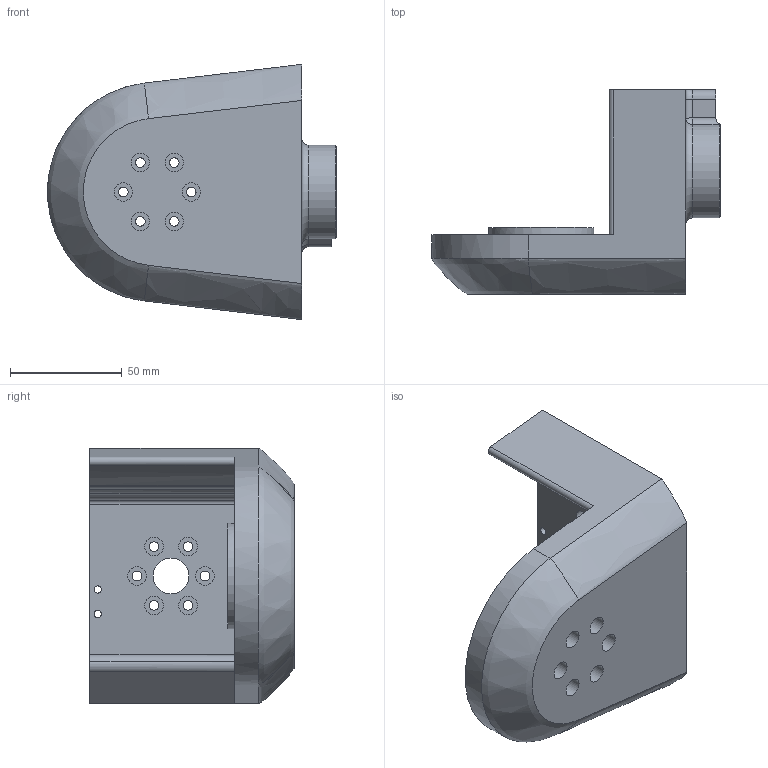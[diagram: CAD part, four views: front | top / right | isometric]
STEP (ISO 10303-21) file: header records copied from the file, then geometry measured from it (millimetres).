
FILE_DESCRIPTION(/* description */ ('STEP AP242 Edition 2','CAx-IF Rec.Pracs.---Representation and Presentation of Product Manufacturing Information (PMI)---4.0---2014-10-13','CAx-IF Rec.Pracs.---3D Tessellated Geometry---0.4---2014-09-14','2;1','CAx-IF Rec.Pracs.---User Defined Attributes---1.5---2016-08-15'),/* implementation_level */ '2;1');
FILE_NAME(/* name */ 'Assy_ForMFG - KD-C-101R-ShldYokeDrive',/* time_stamp */ '2026-05-15T19:56:28Z',/* author */ (''),/* organization */ (''),/* preprocessor_version */ 'ST-DEVELOPER v20',/* originating_system */ 'ONSHAPE BY PTC INC, 1.215',/* authorisation */ ' ');
FILE_SCHEMA (('AP242_MANAGED_MODEL_BASED_3D_ENGINEERING_MIM_LF { 1 0 10303 442 3 1 4 }'));
Length unit declared in the file: metre
Products named in the file (1): KD-C-101R-ShldYokeDrive
Bounding box: 128.96 x 91.25 x 114 mm (x, y, z)
Volume: 165354.3 mm3; surface area: 79414.4 mm2
Topology: 1 solids, 1 shells, 261 faces, 723 edges, 477 vertices
Faces by surface type: cylinder 141, plane 73, cone 26, bspline 14, torus 5, sphere 2
Full cylindrical faces by diameter (mm): 3 x2, 3.3 x4, 4 x6, 4.3 x12, 8.25 x12, 16 x1, 18 x1, 47 x1
Entity records: 9365 total; most frequent: CARTESIAN_POINT 3006, DIRECTION 1358, ORIENTED_EDGE 1236, EDGE_CURVE 618, AXIS2_PLACEMENT_3D 565, VERTEX_POINT 443, FACE_BOUND 375, EDGE_LOOP 365
